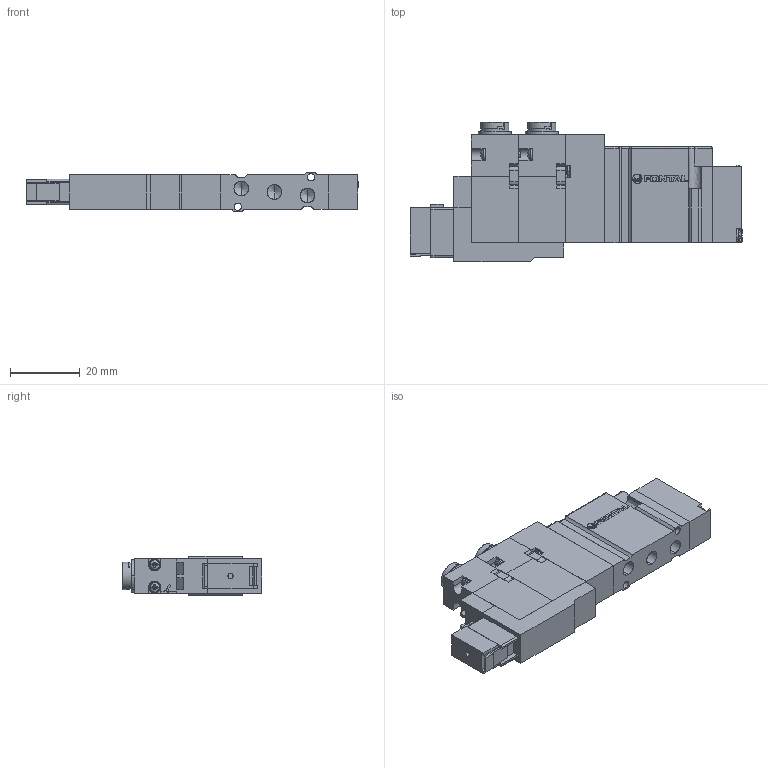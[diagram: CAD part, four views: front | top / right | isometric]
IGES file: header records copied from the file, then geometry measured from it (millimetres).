
Start section: SolidWorks IGES file using analytic representation for surfaces
Global section: file name: D:\Custom\3D繪製\ADEX\A05F\A05FD25#-#-#-E.IGS,1; native system: 5HSolidWorks 2014; preprocessor: SolidWorks 2014; author: Chieh_Lu; date: 150809.153934; units: millimetre
Bounding box: 95.3 x 40.1 x 11.4 mm (x, y, z)
Surface area: 15538.2 mm2 (no closed solid volume)
Topology: 0 solids, 0 shells, 900 faces, 7406 edges, 7372 vertices
Faces by surface type: bspline 612, revolution 288
